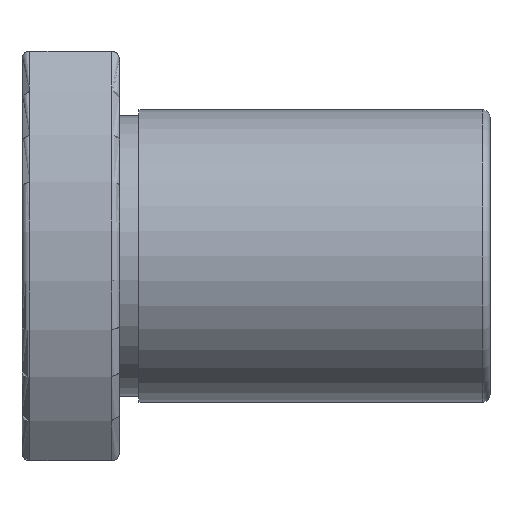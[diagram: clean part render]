
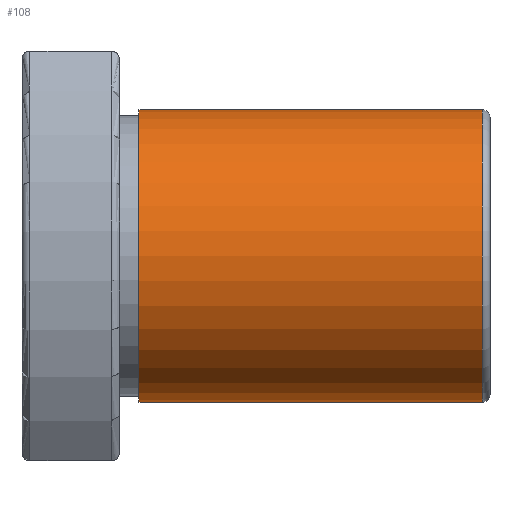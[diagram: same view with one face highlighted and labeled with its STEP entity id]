
A CAD part, front view. The second image highlights one B-rep face of the part: STEP entity #108.
In plain terms, the highlighted cylindrical face has radius 7.5 mm (diameter 15 mm), a full revolution.
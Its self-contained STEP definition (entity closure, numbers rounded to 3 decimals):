
#108 = ADVANCED_FACE( '', ( #232, #233 ), #234, .T. );
#232 = FACE_OUTER_BOUND( '', #351, .T. );
#233 = FACE_OUTER_BOUND( '', #352, .T. );
#234 = CYLINDRICAL_SURFACE( '', #353, 7.5 );
#351 = EDGE_LOOP( '', ( #557 ) );
#352 = EDGE_LOOP( '', ( #558 ) );
#353 = AXIS2_PLACEMENT_3D( '', #559, #560, #561 );
#557 = ORIENTED_EDGE( '', *, *, #639, .F. );
#558 = ORIENTED_EDGE( '', *, *, #627, .T. );
#559 = CARTESIAN_POINT( '', ( 14.4, 0., 0. ) );
#560 = DIRECTION( '', ( -1., 0., 0. ) );
#561 = DIRECTION( '', ( 0., 1., 0. ) );
#627 = EDGE_CURVE( '', #731, #731, #732, .F. );
#639 = EDGE_CURVE( '', #747, #747, #748, .F. );
#731 = VERTEX_POINT( '', #892 );
#732 = CIRCLE( '', #893, 7.5 );
#747 = VERTEX_POINT( '', #910 );
#748 = CIRCLE( '', #911, 7.5 );
#892 = CARTESIAN_POINT( '', ( 23.6, 7.5, 0. ) );
#893 = AXIS2_PLACEMENT_3D( '', #995, #996, #997 );
#910 = CARTESIAN_POINT( '', ( 6., 0., -7.5 ) );
#911 = AXIS2_PLACEMENT_3D( '', #1009, #1010, #1011 );
#995 = CARTESIAN_POINT( '', ( 23.6, 0., 0. ) );
#996 = DIRECTION( '', ( 1., 0., 0. ) );
#997 = DIRECTION( '', ( 0., 0., -1. ) );
#1009 = CARTESIAN_POINT( '', ( 6., 0., 0. ) );
#1010 = DIRECTION( '', ( 1., 0., 0. ) );
#1011 = DIRECTION( '', ( 0., 0., -1. ) );
